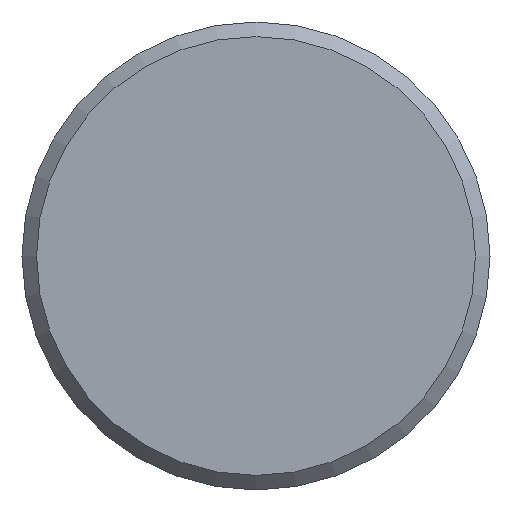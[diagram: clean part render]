
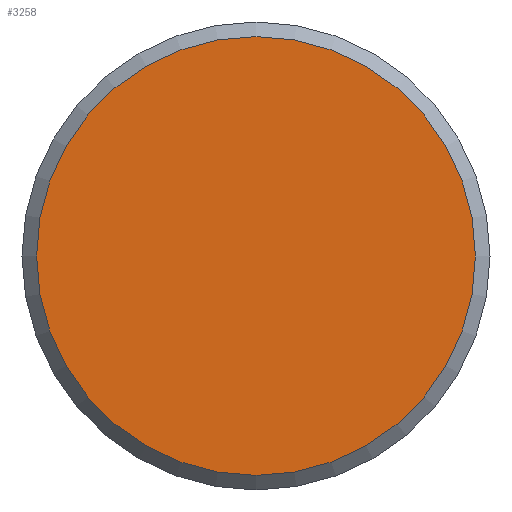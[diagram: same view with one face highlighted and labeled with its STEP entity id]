
A CAD part, left-side view. The second image highlights one B-rep face of the part: STEP entity #3258.
In plain terms, the highlighted planar face has unit normal (-1, 0, 0).
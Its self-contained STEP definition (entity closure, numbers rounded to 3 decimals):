
#1175=PLANE('',#2998);
#1219=ORIENTED_EDGE('',*,*,#1657,.F.);
#1437=CIRCLE('',#2997,7.5);
#1547=VERTEX_POINT('',#2663);
#1657=EDGE_CURVE('',#1547,#1547,#1437,.T.);
#1769=EDGE_LOOP('',(#1219));
#1989=FACE_BOUND('',#1769,.T.);
#2213=DIRECTION('',(1.,0.,0.));
#2214=DIRECTION('',(0.,-7.5,0.));
#2215=DIRECTION('',(-1.,0.,0.));
#2216=DIRECTION('',(0.,1.,0.));
#2663=CARTESIAN_POINT('',(31.115,154.031,0.));
#2664=CARTESIAN_POINT('',(31.115,161.531,0.));
#2665=CARTESIAN_POINT('',(31.115,161.531,0.));
#2997=AXIS2_PLACEMENT_3D('',#2664,#2213,#2214);
#2998=AXIS2_PLACEMENT_3D('',#2665,#2215,#2216);
#3258=ADVANCED_FACE('',(#1989),#1175,.T.);
